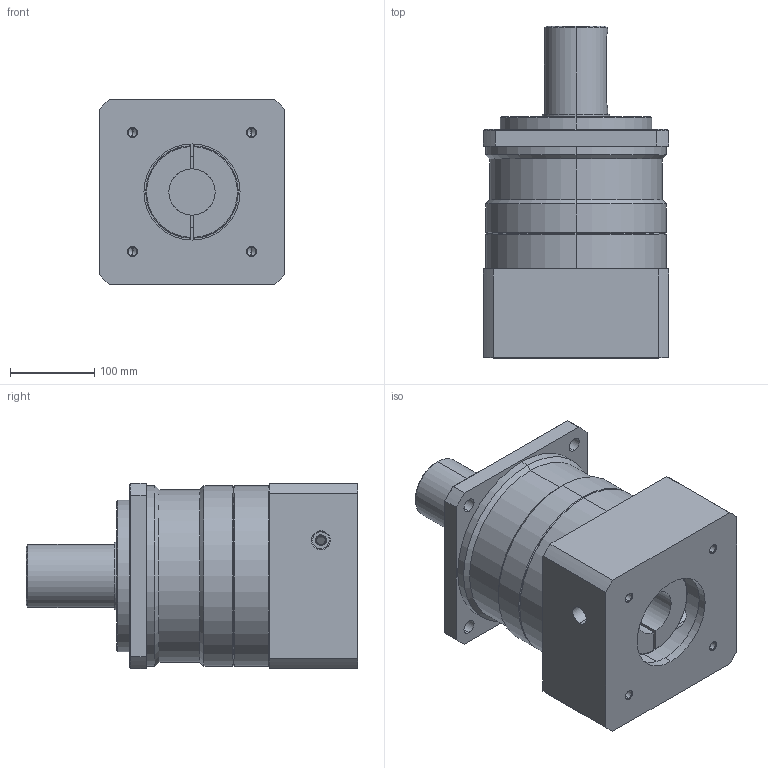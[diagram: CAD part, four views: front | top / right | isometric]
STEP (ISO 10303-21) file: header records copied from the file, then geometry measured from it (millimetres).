
FILE_DESCRIPTION (( 'STEP AP203' ), '1' );
FILE_NAME ('MF220X-L1£r114.3PCD£r200M12.STEP', '2014-04-16T07:59:14', ( 'KELLY' ), ( '' ), 'SwSTEP 2.0', 'SolidWorks 2012', '' );
FILE_SCHEMA (( 'CONFIG_CONTROL_DESIGN' ));
Length unit declared in the file: millimetre
Products named in the file (1): MF220X-L1｣r114.3PCD｣r200M12
Bounding box: 220 x 394.5 x 220 mm (x, y, z)
Volume: 10458627.1 mm3; surface area: 578497.1 mm2
Topology: 2 solids, 2 shells, 153 faces, 364 edges, 221 vertices
Faces by surface type: cylinder 68, cone 42, plane 39, torus 4
Entity records: 5155 total; most frequent: CARTESIAN_POINT 1479, DIRECTION 794, ORIENTED_EDGE 708, EDGE_CURVE 354, AXIS2_PLACEMENT_3D 316, VERTEX_POINT 221, EDGE_LOOP 189, LINE 162
